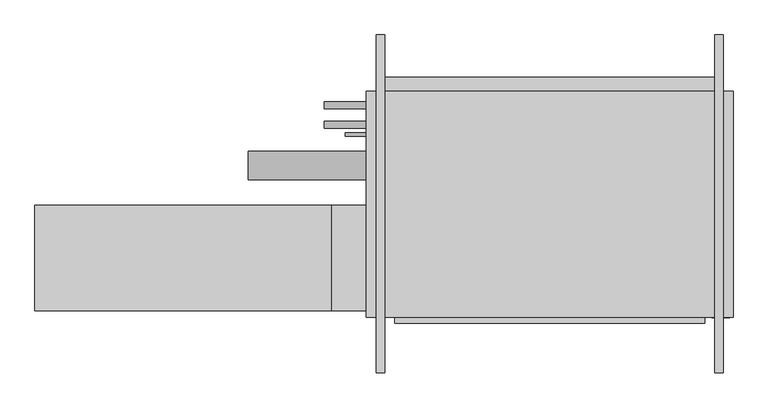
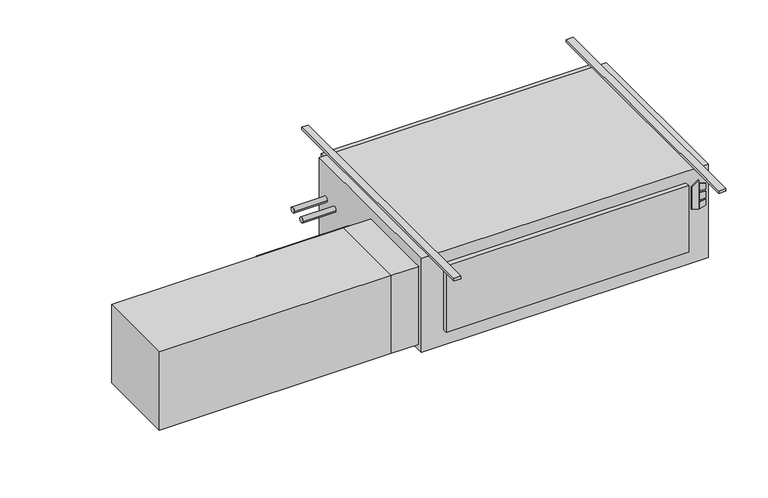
"""IFC4 building model written with IfcOpenShell, lengths in millimetres: proxy geometry."""

import ifcopenshell
import ifcopenshell.guid

model = None  # the IFC model being written
_history = None  # IfcOwnerHistory: only IFC2X3 demands one
_inside = {}  # id of a spatial element -> (the spatial element, [elements in it])
_under = {}  # id of a project, library or spatial element -> (it, [spatial elements below it])
_declared = {}  # id of a project -> (the project, [libraries it declares])
_typed = {}  # id of a type object -> (the type object, [elements of that type])
_made_of = {}  # id of a material, layer set ... -> (it, [elements and type objects made of it])


def new_model(schema):
    """Start an empty IFC model of exactly this schema.

    Asked for "IFC4X3", IfcOpenShell would pick the latest addendum, in which some entities
    have other attributes; the version numbers below select the first issue.
    IFC2X3 requires an IfcOwnerHistory on every rooted entity: one is made here for all.
    """
    global model, _history
    if schema == "IFC4X3":
        model = ifcopenshell.file(schema_version=(4, 3, 0, 0))
    else:
        model = ifcopenshell.file(schema=schema)
    _inside.clear()
    _under.clear()
    _declared.clear()
    _typed.clear()
    _made_of.clear()
    _history = None
    if model.schema == "IFC2X3":
        org = make("IfcOrganization", Name="unknown")
        user = make(
            "IfcPersonAndOrganization",
            ThePerson=make("IfcPerson", FamilyName="unknown"),
            TheOrganization=org,
        )
        app = make(
            "IfcApplication",
            ApplicationDeveloper=org,
            Version="unknown",
            ApplicationFullName="unknown",
            ApplicationIdentifier="unknown",
        )
        _history = make(
            "IfcOwnerHistory",
            OwningUser=user,
            OwningApplication=app,
            ChangeAction="ADDED",
            CreationDate=0,
        )
    return model


def make(cls, **values):
    """One entity of the class cls with the attributes given. An attribute that is None is left unset."""
    return model.create_entity(
        cls, **{name: value for name, value in values.items() if value is not None}
    )


def rooted(cls, **values):
    """An entity with a GlobalId (a new one), such as an element, a storey or a relation."""
    return make(cls, GlobalId=ifcopenshell.guid.new(), OwnerHistory=_history, **values)


def si_unit(unit_type, name, prefix=None):
    """IfcSIUnit, for example si_unit("LENGTHUNIT", "METRE", prefix="MILLI")."""
    return make("IfcSIUnit", UnitType=unit_type, Prefix=prefix, Name=name)


def assignment(units):
    """IfcUnitAssignment: the units of a project."""
    return None if units is None else make("IfcUnitAssignment", Units=units)


def point(xyz):
    """IfcCartesianPoint."""
    return None if xyz is None else make("IfcCartesianPoint", Coordinates=xyz)


def direction(xyz):
    """IfcDirection."""
    return None if xyz is None else make("IfcDirection", DirectionRatios=xyz)


def frame(location, z_axis=None, x_axis=None):
    """IfcAxis2Placement3D, a coordinate frame: its origin and axes. An axis left out is left unset."""
    return make(
        "IfcAxis2Placement3D",
        Location=point(location),
        Axis=direction(z_axis),
        RefDirection=direction(x_axis),
    )


def frame_2d(location, x_axis=None):
    """IfcAxis2Placement2D, a coordinate frame in the plane: its origin and x axis."""
    return make(
        "IfcAxis2Placement2D", Location=point(location), RefDirection=direction(x_axis)
    )


def origin():
    """The frame at (0, 0, 0) with its axes left unset."""
    return frame((0.0, 0.0, 0.0))


def origin_with_axes():
    """The frame at (0, 0, 0) with the z axis (0, 0, 1) and the x axis (1, 0, 0) written out."""
    return frame((0.0, 0.0, 0.0), z_axis=(0.0, 0.0, 1.0), x_axis=(1.0, 0.0, 0.0))


def place(relative_to, where):
    """IfcLocalPlacement: puts the frame where relative to a parent placement (None: the world)."""
    return make(
        "IfcLocalPlacement", PlacementRelTo=relative_to, RelativePlacement=where
    )


def context(
    kind, dimensions, precision=None, world=None, true_north=None, identifier=None
):
    """IfcGeometricRepresentationContext, for example the 3D "Model" context."""
    return make(
        "IfcGeometricRepresentationContext",
        ContextIdentifier=identifier,
        ContextType=kind,
        CoordinateSpaceDimension=dimensions,
        Precision=precision,
        WorldCoordinateSystem=world,
        TrueNorth=true_north,
    )


def project(units=None, contexts=None):
    """IfcProject with its units and contexts."""
    return rooted(
        "IfcProject",
        Name="project",
        RepresentationContexts=contexts,
        UnitsInContext=assignment(units),
    )


def spatial(cls, under=None, at=None, **own):
    """A site, building, storey or space (cls), placed at a placement, below another one or the project."""
    s = rooted(cls, ObjectPlacement=at, **own)
    if under is not None:
        _under.setdefault(under.id(), (under, []))[1].append(s)
    return s


def polyline(points):
    """IfcPolyline through the points."""
    return make("IfcPolyline", Points=[point(p) for p in points])


def circle_curve(where, radius):
    """IfcCircle in the frame where."""
    return make("IfcCircle", Position=where, Radius=radius)


def trimmed(basis, trim1, trim2, sense, master):
    """IfcTrimmedCurve: the piece of a basis curve between two trims."""
    return make(
        "IfcTrimmedCurve",
        BasisCurve=basis,
        Trim1=trim1,
        Trim2=trim2,
        SenseAgreement=sense,
        MasterRepresentation=master,
    )


def segment(curve, same_sense, transition):
    """IfcCompositeCurveSegment."""
    return make(
        "IfcCompositeCurveSegment",
        Transition=transition,
        SameSense=same_sense,
        ParentCurve=curve,
    )


def composite_curve(segments, self_intersect=None):
    """IfcCompositeCurve: segments joined end to end."""
    return make("IfcCompositeCurve", Segments=segments, SelfIntersect=self_intersect)


def outline(outer, holes=None, kind="AREA"):
    """IfcArbitraryClosedProfileDef: a profile drawn as a closed curve; with holes, ...WithVoids."""
    if holes is None:
        return make("IfcArbitraryClosedProfileDef", ProfileType=kind, OuterCurve=outer)
    return make(
        "IfcArbitraryProfileDefWithVoids",
        ProfileType=kind,
        OuterCurve=outer,
        InnerCurves=holes,
    )


def extrude(swept, where, along, depth):
    """IfcExtrudedAreaSolid: the profile swept, set in the frame where, extruded along a direction by depth."""
    return make(
        "IfcExtrudedAreaSolid",
        SweptArea=swept,
        Position=where,
        ExtrudedDirection=direction(along),
        Depth=depth,
    )


def shape(context_of_items, identifier, shape_type, items):
    """IfcShapeRepresentation: the items that make up one representation, for example the "Body"."""
    return make(
        "IfcShapeRepresentation",
        ContextOfItems=context_of_items,
        RepresentationIdentifier=identifier,
        RepresentationType=shape_type,
        Items=items,
    )


def source(mapping_origin, context_of_items, identifier, shape_type, items):
    """IfcRepresentationMap: a shape defined once, which mapped items show again and again."""
    return make(
        "IfcRepresentationMap",
        MappingOrigin=mapping_origin,
        MappedRepresentation=shape(context_of_items, identifier, shape_type, items),
    )


def transform(
    local_origin,
    x_axis=None,
    y_axis=None,
    z_axis=None,
    scale=None,
    scale2=None,
    scale3=None,
    uniform=True,
):
    """IfcCartesianTransformationOperator3D, or its non-uniform kind. x_axis, y_axis, z_axis: its Axis1, 2, 3."""
    if uniform:
        return make(
            "IfcCartesianTransformationOperator3D",
            Axis1=direction(x_axis),
            Axis2=direction(y_axis),
            LocalOrigin=point(local_origin),
            Scale=scale,
            Axis3=direction(z_axis),
        )
    return make(
        "IfcCartesianTransformationOperator3DnonUniform",
        Axis1=direction(x_axis),
        Axis2=direction(y_axis),
        LocalOrigin=point(local_origin),
        Scale=scale,
        Axis3=direction(z_axis),
        Scale2=scale2,
        Scale3=scale3,
    )


def mapped(mapping_source, mapping_target):
    """IfcMappedItem: shows the shape of a source again, moved by a transform."""
    return make(
        "IfcMappedItem", MappingSource=mapping_source, MappingTarget=mapping_target
    )


def made_of(thing, what):
    """Note that an element or type object is made of a material, layer set ...; save() writes the relation."""
    if what is not None:
        _made_of.setdefault(what.id(), (what, []))[1].append(thing)
    return thing


def element(
    cls,
    number,
    at=None,
    inside=None,
    cuts=None,
    type_object=None,
    material=None,
    context=None,
    identifier="Body",
    shape_type=None,
    held_by="IfcProductDefinitionShape",
    body=None,
    shapes=None,
    **own,
):
    """One element of the class cls, such as IfcWall. Its Tag is "e" and its number.

    at: its placement. inside: the storey or other place that contains it. cuts: it is an
    opening in that element (IfcRelVoidsElement). A single representation is given by context,
    identifier, shape_type and body (its items); several are given by shapes. held_by: the class
    of the entity that holds the representations. save() writes the other relations.
    """
    e = rooted(cls, Tag="e%d" % number, ObjectPlacement=at, **own)
    if body is not None:
        shapes = [shape(context, identifier, shape_type, body)]
    if shapes is not None:
        e.Representation = make(held_by, Representations=shapes)
    if inside is not None:
        _inside.setdefault(inside.id(), (inside, []))[1].append(e)
    if cuts is not None:
        rooted(
            "IfcRelVoidsElement", RelatingBuildingElement=cuts, RelatedOpeningElement=e
        )
    if type_object is not None:
        _typed.setdefault(type_object.id(), (type_object, []))[1].append(e)
    return made_of(e, material)


def aggregate(whole, parts):
    """IfcRelAggregates: a whole, such as a stair, and the parts it consists of."""
    return rooted("IfcRelAggregates", RelatingObject=whole, RelatedObjects=parts)


def save(model, path):
    """Write the relations noted so far, then the file.

    IfcRelAggregates (storeys below a building ...), IfcRelContainedInSpatialStructure (elements
    in a storey), IfcRelDefinesByType, IfcRelAssociatesMaterial and IfcRelDeclares: one each for
    every whole, place, type object, material and project.
    """
    for whole, parts in _under.values():
        aggregate(whole, parts)
    for where, things in _inside.values():
        rooted(
            "IfcRelContainedInSpatialStructure",
            RelatedElements=things,
            RelatingStructure=where,
        )
    for kind, things in _typed.values():
        rooted("IfcRelDefinesByType", RelatedObjects=things, RelatingType=kind)
    for what, things in _made_of.values():
        rooted("IfcRelAssociatesMaterial", RelatedObjects=things, RelatingMaterial=what)
    for by, libraries in _declared.values():
        rooted("IfcRelDeclares", RelatingContext=by, RelatedDefinitions=libraries)
    model.write(path)


def mechanical_equipment_e784d3da(model_context):
    return source(origin(), model_context, "Body", "SweptSolid", [
        extrude(outline(polyline([(-193.2519297, 735.0868862), (-203.2, 767.2602728), (-61.0290756, 767.2602728), (-84.0510817, 735.0868862), (-193.2519297, 735.0868862)])), frame((0.0, -647.7, 0.0), z_axis=(0.0, 1.0, 0.0), x_axis=(0.0, 0.0, 1.0)), (0.0, 0.0, 1.0), 3.175),
        extrude(outline(polyline([(-114.2526443, 774.0186058), (-117.4550368, 800.1), (-88.2261958, 800.1), (-80.1617807, 774.0186058), (-114.2526443, 774.0186058)])), frame((0.0, -647.7, 0.0), z_axis=(0.0, 1.0, 0.0), x_axis=(0.0, 0.0, 1.0)), (0.0, 0.0, 1.0), 3.175),
        extrude(outline(polyline([(-166.1161712, 800.1), (-169.7816721, 774.0186058), (-203.2, 774.0186058), (-194.5657628, 800.1), (-166.1161712, 800.1)])), frame((0.0, -647.7, 0.0), z_axis=(0.0, 1.0, 0.0), x_axis=(0.0, 0.0, 1.0)), (0.0, 0.0, 1.0), 3.175),
        extrude(outline(polyline([(-126.8010097, 800.1), (-124.5191834, 774.0186058), (-160.4567319, 774.0186058), (-157.7154669, 800.1), (-126.8010097, 800.1)])), frame((0.0, -647.7, 0.0), z_axis=(0.0, 1.0, 0.0), x_axis=(0.0, 0.0, 1.0)), (0.0, 0.0, 1.0), 3.175),
        extrude(outline(polyline([(711.2, -666.877), (-406.4, -666.877), (-406.4, -644.525), (711.2, -644.525), (711.2, -666.877)])), frame((0.0, 0.0, -381.0), z_axis=(0.0, 0.0, 1.0), x_axis=(1.0, 0.0, 0.0)), (0.0, 0.0, 1.0), 323.85),
        extrude(outline(polyline([(-1701.8, -622.3), (-1701.8, -241.3), (-635.0, -241.3), (-635.0, -622.3), (-1701.8, -622.3)])), frame((0.0, 0.0, -431.8), z_axis=(0.0, 0.0, 1.0), x_axis=(1.0, 0.0, 0.0)), (0.0, 0.0, 1.0), 381.0),
        extrude(outline(polyline([(-508.0, -241.3), (-508.0, -622.3), (-635.0, -622.3), (-635.0, -241.3), (-508.0, -241.3)])), frame((0.0, 0.0, -431.8), z_axis=(0.0, 0.0, 1.0), x_axis=(1.0, 0.0, 0.0)), (0.0, 0.0, 1.0), 381.0),
        extrude(outline(composite_curve([segment(trimmed(circle_curve(frame_2d((-98.4896516, -228.6360165)), 50.8), [point((-149.2896516, -228.6360165))], [point((-47.6896516, -228.6360165))], False, "CARTESIAN"), True, "CONTINUOUS"), segment(trimmed(circle_curve(frame_2d((-98.4896516, -228.6360165)), 50.8), [point((-47.6896516, -228.6360165))], [point((-149.2896516, -228.6360165))], False, "CARTESIAN"), True, "CONTINUOUS")], self_intersect=False)), frame((-933.45, 0.0, 0.0), z_axis=(1.0, 0.0, 0.0), x_axis=(0.0, 1.0, 0.0)), (0.0, 0.0, 1.0), 425.45),
        extrude(outline(composite_curve([segment(trimmed(circle_curve(frame_2d((47.625, -177.8)), 12.7), [point((34.925, -177.8))], [point((60.325, -177.8))], False, "CARTESIAN"), True, "CONTINUOUS"), segment(trimmed(circle_curve(frame_2d((47.625, -177.8)), 12.7), [point((60.325, -177.8))], [point((34.925, -177.8))], False, "CARTESIAN"), True, "CONTINUOUS")], self_intersect=False)), frame((-660.4, 0.0, 0.0), z_axis=(1.0, 0.0, 0.0), x_axis=(0.0, 1.0, 0.0)), (0.0, 0.0, 1.0), 152.4),
        extrude(outline(composite_curve([segment(trimmed(circle_curve(frame_2d((117.475, -171.45)), 12.7), [point((104.775, -171.45))], [point((130.175, -171.45))], False, "CARTESIAN"), True, "CONTINUOUS"), segment(trimmed(circle_curve(frame_2d((117.475, -171.45)), 12.7), [point((130.175, -171.45))], [point((104.775, -171.45))], False, "CARTESIAN"), True, "CONTINUOUS")], self_intersect=False)), frame((-660.4, 0.0, 0.0), z_axis=(1.0, 0.0, 0.0), x_axis=(0.0, 1.0, 0.0)), (0.0, 0.0, 1.0), 152.4),
        extrude(outline(composite_curve([segment(trimmed(circle_curve(frame_2d((12.7, -409.575)), 6.35), [point((6.35, -409.575))], [point((19.05, -409.575))], False, "CARTESIAN"), True, "CONTINUOUS"), segment(trimmed(circle_curve(frame_2d((12.7, -409.575)), 6.35), [point((19.05, -409.575))], [point((6.35, -409.575))], False, "CARTESIAN"), True, "CONTINUOUS")], self_intersect=False)), frame((-584.2, 0.0, 0.0), z_axis=(1.0, 0.0, 0.0), x_axis=(0.0, 1.0, 0.0)), (0.0, 0.0, 1.0), 76.2),
        extrude(outline(polyline([(812.8, 168.275), (812.8, -644.525), (-508.0, -644.525), (-508.0, 168.275), (812.8, 168.275)])), frame((0.0, 0.0, -457.2), z_axis=(0.0, 0.0, 1.0), x_axis=(1.0, 0.0, 0.0)), (0.0, 0.0, 1.0), 457.2),
        extrude(outline(polyline([(-469.9, 219.075), (774.7, 219.075), (774.7, 168.275), (-469.9, 168.275), (-469.9, 219.075)])), frame((0.0, 0.0, -381.0), z_axis=(0.0, 0.0, 1.0), x_axis=(1.0, 0.0, 0.0)), (0.0, 0.0, 1.0), 355.6),
        extrude(outline(polyline([(-441.325, 371.475), (-441.325, -844.677), (-473.075, -844.677), (-473.075, 371.475), (-441.325, 371.475)])), origin_with_axes(), (0.0, 0.0, 1.0), 12.7),
        extrude(outline(polyline([(777.875, 371.475), (777.875, -844.677), (746.125, -844.677), (746.125, 371.475), (777.875, 371.475)])), origin_with_axes(), (0.0, 0.0, 1.0), 12.7),
    ])


if __name__ == "__main__":
    model = new_model("IFC4")
    model_context = context("Model", 3, world=origin())
    ifc_project = project(units=[si_unit("LENGTHUNIT", "METRE", prefix="MILLI")], contexts=[model_context])
    site = spatial("IfcSite", under=ifc_project)
    building = spatial("IfcBuilding", under=site)
    placement = place(None, origin())
    mechanical_equipment_shape = mechanical_equipment_e784d3da(model_context)
    element("IfcBuildingElementProxy", 1, Name="High_Capacity_Horizontal_Cabinet_Fan_Coil_Unit_-_HTY_-_IEC_-_2-Pipe_LH Side_2022 : Size 18 - 115v/60Hz/1Ph - 4/0 Coil - 4\" AirIn", ObjectType="High_Capacity_Horizontal_Cabinet_Fan_Coil_Unit_-_HTY_-_IEC_-_2-Pipe_LH Side_2022 : Size 18 - 115v/60Hz/1Ph - 4/0 Coil - 4\" AirIn", at=placement, inside=building, context=model_context, shape_type="MappedRepresentation", body=[
        mapped(mechanical_equipment_shape, transform((0.0, 0.0, 0.0), x_axis=(1.0, 0.0, 0.0), y_axis=(0.0, 1.0, 0.0), z_axis=(0.0, 0.0, 1.0))),
    ])
    save(model, "model.ifc")
